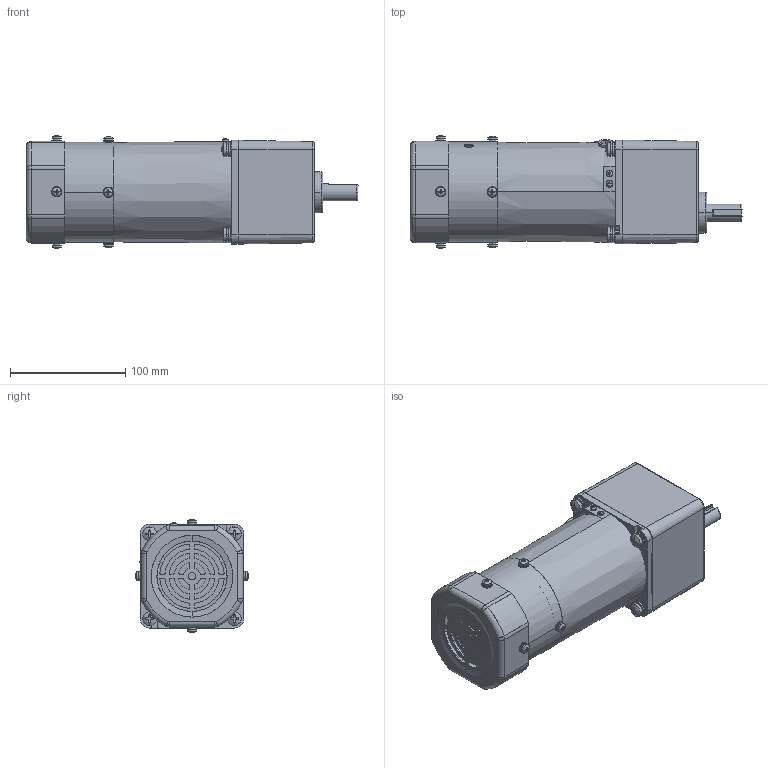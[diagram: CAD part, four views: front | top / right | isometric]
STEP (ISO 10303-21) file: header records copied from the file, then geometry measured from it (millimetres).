
FILE_DESCRIPTION (( 'STEP AP203' ), '1' );
FILE_NAME ('5RK90GU-CMF(5GU3KB-200KB).STEP', '2020-04-10T09:38:40', ( 'Windows 蚚誧' ), ( '' ), 'SwSTEP 2.0', 'SolidWorks 2019', '' );
FILE_SCHEMA (( 'CONFIG_CONTROL_DESIGN' ));
Length unit declared in the file: millimetre
Products named in the file (7): 5GU3KB-200KB; 5RK90GU-CMF(5GU3KB-200KB); 90JK; M3; 90SCZ; 90FZ; 5RK90A-CMF
Assembly tree (6 placements, depth 3):
  5RK90GU-CMF(5GU3KB-200KB)
    5RK90A-CMF
      90JK
      M3
      90SCZ
      90FZ
    5GU3KB-200KB
Bounding box: 288 x 98.11 x 98.11 mm (x, y, z)
Volume: 1268655.1 mm3; surface area: 184137.4 mm2
Topology: 45 solids, 45 shells, 1239 faces, 3152 edges, 2027 vertices
Faces by surface type: cylinder 529, plane 458, cone 127, torus 59, sphere 46, bspline 20
Entity records: 40697 total; most frequent: CARTESIAN_POINT 8985, DIRECTION 7036, ORIENTED_EDGE 6252, EDGE_CURVE 3126, AXIS2_PLACEMENT_3D 2860, VERTEX_POINT 2027, CIRCLE 1631, EDGE_LOOP 1373
